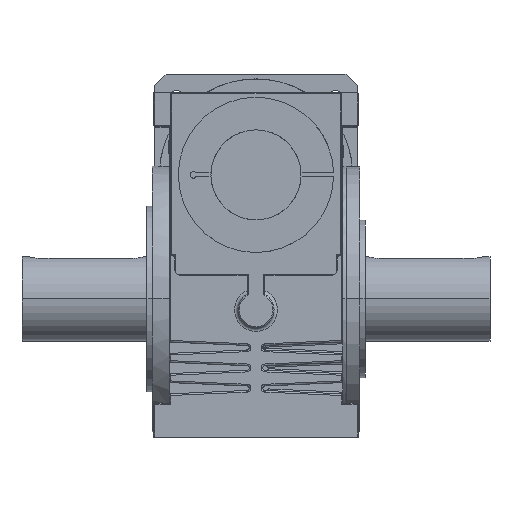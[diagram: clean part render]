
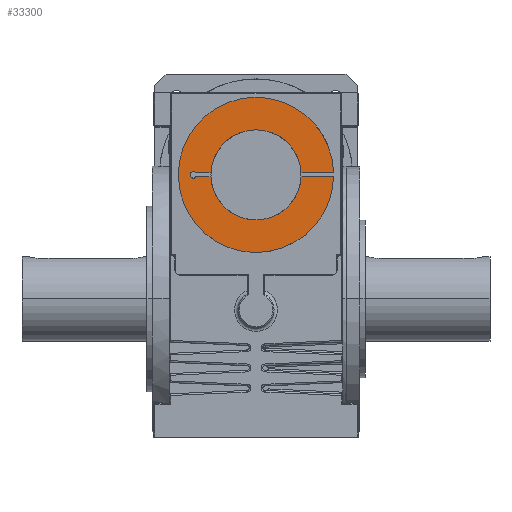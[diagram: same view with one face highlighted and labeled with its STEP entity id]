
A CAD part, top view. The second image highlights one B-rep face of the part: STEP entity #33300.
In plain terms, the highlighted planar face has unit normal (0, 0, 1).
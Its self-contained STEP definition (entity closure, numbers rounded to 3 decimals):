
#330 = DIRECTION ( 'NONE',  ( -1., -0.004, 0. ) ) ;
#609 = CARTESIAN_POINT ( 'NONE',  ( -53.455, 111.762, 151.75 ) ) ;
#1282 = DIRECTION ( 'NONE',  ( 0., 0., 1. ) ) ;
#2054 = EDGE_CURVE ( 'NONE', #3351, #68136, #56694, .T. ) ;
#2705 = LINE ( 'NONE', #37045, #47891 ) ;
#3028 = DIRECTION ( 'NONE',  ( 1., 0., 0. ) ) ;
#3351 = VERTEX_POINT ( 'NONE', #25002 ) ;
#3497 = DIRECTION ( 'NONE',  ( 1., 0., 0. ) ) ;
#3507 = CARTESIAN_POINT ( 'NONE',  ( -69., 110., 151.75 ) ) ;
#3786 = CARTESIAN_POINT ( 'NONE',  ( 0., 110., 151.75 ) ) ;
#3943 = DIRECTION ( 'NONE',  ( 0., 0., 1. ) ) ;
#4326 = VERTEX_POINT ( 'NONE', #67006 ) ;
#4778 = ORIENTED_EDGE ( 'NONE', *, *, #10430, .T. ) ;
#5432 = VERTEX_POINT ( 'NONE', #27956 ) ;
#6830 = CIRCLE ( 'NONE', #31197, 2.872 ) ;
#8110 = LINE ( 'NONE', #609, #56629 ) ;
#10314 = AXIS2_PLACEMENT_3D ( 'NONE', #35569, #3943, #3497 ) ;
#10430 = EDGE_CURVE ( 'NONE', #17419, #3351, #52520, .T. ) ;
#10494 = CARTESIAN_POINT ( 'NONE',  ( 0., 110., 151.75 ) ) ;
#11273 = ORIENTED_EDGE ( 'NONE', *, *, #20033, .T. ) ;
#11440 = VECTOR ( 'NONE', #61461, 1000. ) ;
#12062 = ORIENTED_EDGE ( 'NONE', *, *, #52060, .T. ) ;
#14066 = ORIENTED_EDGE ( 'NONE', *, *, #64494, .T. ) ;
#14351 = DIRECTION ( 'NONE',  ( 0., 0., -1. ) ) ;
#15571 = AXIS2_PLACEMENT_3D ( 'NONE', #3786, #14351, #24448 ) ;
#17419 = VERTEX_POINT ( 'NONE', #65903 ) ;
#17478 = CARTESIAN_POINT ( 'NONE',  ( 0., 110., 151.75 ) ) ;
#18326 = DIRECTION ( 'NONE',  ( 0., 0., 1. ) ) ;
#18560 = DIRECTION ( 'NONE',  ( 1., 0., 0. ) ) ;
#19239 = AXIS2_PLACEMENT_3D ( 'NONE', #10494, #1282, #38428 ) ;
#19950 = CARTESIAN_POINT ( 'NONE',  ( 68.988, 108.693, 151.75 ) ) ;
#20033 = EDGE_CURVE ( 'NONE', #60380, #26495, #53354, .T. ) ;
#20832 = DIRECTION ( 'NONE',  ( 0., 0., -1. ) ) ;
#21141 = VERTEX_POINT ( 'NONE', #19950 ) ;
#21311 = CARTESIAN_POINT ( 'NONE',  ( 39.999, 108.585, 151.75 ) ) ;
#21527 = DIRECTION ( 'NONE',  ( 1., 0., 0. ) ) ;
#21968 = AXIS2_PLACEMENT_3D ( 'NONE', #17478, #48506, #59310 ) ;
#22506 = EDGE_CURVE ( 'NONE', #24834, #17419, #22604, .T. ) ;
#22604 = CIRCLE ( 'NONE', #21968, 40.024 ) ;
#22833 = CARTESIAN_POINT ( 'NONE',  ( 68.977, 111.762, 151.75 ) ) ;
#24448 = DIRECTION ( 'NONE',  ( 1., 0., 0. ) ) ;
#24658 = CARTESIAN_POINT ( 'NONE',  ( -53.455, 108.238, 151.75 ) ) ;
#24834 = VERTEX_POINT ( 'NONE', #21311 ) ;
#25002 = CARTESIAN_POINT ( 'NONE',  ( -53.455, 108.238, 151.75 ) ) ;
#25735 = CARTESIAN_POINT ( 'NONE',  ( 39.985, 111.762, 151.75 ) ) ;
#26495 = VERTEX_POINT ( 'NONE', #22833 ) ;
#27956 = CARTESIAN_POINT ( 'NONE',  ( -39.985, 111.762, 151.75 ) ) ;
#28566 = EDGE_CURVE ( 'NONE', #26495, #61568, #34934, .T. ) ;
#28946 = DIRECTION ( 'NONE',  ( 0., 0., -1. ) ) ;
#30905 = CARTESIAN_POINT ( 'NONE',  ( -55.723, 110., 151.75 ) ) ;
#31115 = VECTOR ( 'NONE', #40470, 1000. ) ;
#31197 = AXIS2_PLACEMENT_3D ( 'NONE', #30905, #20832, #21527 ) ;
#33300 = ADVANCED_FACE ( 'NONE', ( #54030 ), #66380, .T. ) ;
#33968 = CARTESIAN_POINT ( 'NONE',  ( -55.723, 110., 151.75 ) ) ;
#34934 = CIRCLE ( 'NONE', #59697, 69. ) ;
#35569 = CARTESIAN_POINT ( 'NONE',  ( 0., 110., 151.75 ) ) ;
#37045 = CARTESIAN_POINT ( 'NONE',  ( 39.999, 108.585, 151.75 ) ) ;
#37175 = ORIENTED_EDGE ( 'NONE', *, *, #22506, .T. ) ;
#37519 = DIRECTION ( 'NONE',  ( 1., 0., 0. ) ) ;
#38428 = DIRECTION ( 'NONE',  ( 1., 0., 0. ) ) ;
#40470 = DIRECTION ( 'NONE',  ( -1., -0.004, 0. ) ) ;
#42135 = EDGE_CURVE ( 'NONE', #21141, #24834, #2705, .T. ) ;
#43342 = EDGE_CURVE ( 'NONE', #61568, #21141, #61744, .T. ) ;
#44044 = CIRCLE ( 'NONE', #15571, 40.024 ) ;
#45947 = ORIENTED_EDGE ( 'NONE', *, *, #2054, .T. ) ;
#47891 = VECTOR ( 'NONE', #330, 1000. ) ;
#48351 = ORIENTED_EDGE ( 'NONE', *, *, #43342, .T. ) ;
#48506 = DIRECTION ( 'NONE',  ( 0., 0., -1. ) ) ;
#51680 = ORIENTED_EDGE ( 'NONE', *, *, #28566, .T. ) ;
#52060 = EDGE_CURVE ( 'NONE', #4326, #5432, #8110, .T. ) ;
#52520 = LINE ( 'NONE', #24658, #31115 ) ;
#52823 = EDGE_CURVE ( 'NONE', #5432, #60380, #44044, .T. ) ;
#53354 = LINE ( 'NONE', #61249, #11440 ) ;
#54030 = FACE_OUTER_BOUND ( 'NONE', #67506, .T. ) ;
#56629 = VECTOR ( 'NONE', #37519, 1000. ) ;
#56694 = CIRCLE ( 'NONE', #64721, 2.872 ) ;
#57826 = CARTESIAN_POINT ( 'NONE',  ( -58.595, 110., 151.75 ) ) ;
#59310 = DIRECTION ( 'NONE',  ( 1., 0., 0. ) ) ;
#59679 = ORIENTED_EDGE ( 'NONE', *, *, #52823, .T. ) ;
#59697 = AXIS2_PLACEMENT_3D ( 'NONE', #59718, #18326, #18560 ) ;
#59718 = CARTESIAN_POINT ( 'NONE',  ( 0., 110., 151.75 ) ) ;
#60380 = VERTEX_POINT ( 'NONE', #25735 ) ;
#61249 = CARTESIAN_POINT ( 'NONE',  ( 39.985, 111.762, 151.75 ) ) ;
#61461 = DIRECTION ( 'NONE',  ( 1., 0., 0. ) ) ;
#61568 = VERTEX_POINT ( 'NONE', #3507 ) ;
#61744 = CIRCLE ( 'NONE', #19239, 69. ) ;
#64494 = EDGE_CURVE ( 'NONE', #68136, #4326, #6830, .T. ) ;
#64721 = AXIS2_PLACEMENT_3D ( 'NONE', #33968, #28946, #3028 ) ;
#65572 = ORIENTED_EDGE ( 'NONE', *, *, #42135, .T. ) ;
#65903 = CARTESIAN_POINT ( 'NONE',  ( -39.988, 108.288, 151.75 ) ) ;
#66380 = PLANE ( 'NONE',  #10314 ) ;
#67006 = CARTESIAN_POINT ( 'NONE',  ( -53.455, 111.762, 151.75 ) ) ;
#67506 = EDGE_LOOP ( 'NONE', ( #37175, #4778, #45947, #14066, #12062, #59679, #11273, #51680, #48351, #65572 ) ) ;
#68136 = VERTEX_POINT ( 'NONE', #57826 ) ;
